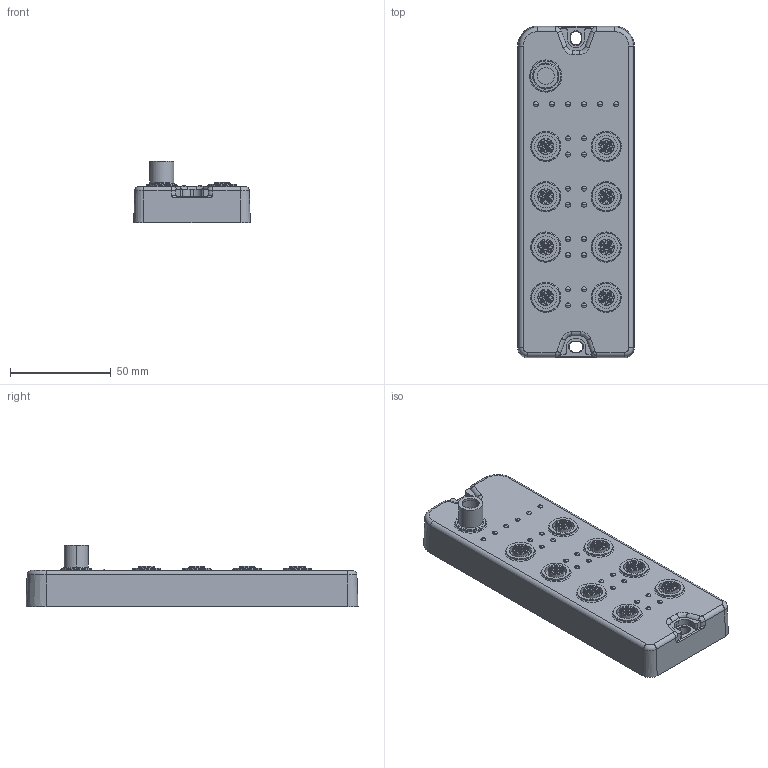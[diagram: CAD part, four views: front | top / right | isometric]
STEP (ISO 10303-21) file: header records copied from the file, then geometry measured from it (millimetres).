
FILE_DESCRIPTION((''),'2;1');
FILE_NAME('IO_LINK_HUB_1126_SW0001','2025-12-04T18:14:05',('Administrator'),(''),'CREO PARAMETRIC BY PTC INC, 2022073','CREO PARAMETRIC BY PTC INC, 2022073','');
FILE_SCHEMA(('CONFIG_CONTROL_DESIGN'));
Length unit declared in the file: millimetre
Products named in the file (1): IO_LINK_HUB_1126_SW0001
Bounding box: 58 x 165 x 30.5 mm (x, y, z)
Volume: 167709.6 mm3; surface area: 30988.7 mm2
Topology: 1 solids, 1 shells, 1254 faces, 3240 edges, 2178 vertices
Faces by surface type: plane 463, cone 342, cylinder 245, torus 148, sphere 44, bspline 12
Entity records: 42239 total; most frequent: CARTESIAN_POINT 11975, ORIENTED_EDGE 6392, DIRECTION 6190, EDGE_CURVE 3196, AXIS2_PLACEMENT_3D 2604, VERTEX_POINT 2178, EDGE_LOOP 1492, CIRCLE 1362
